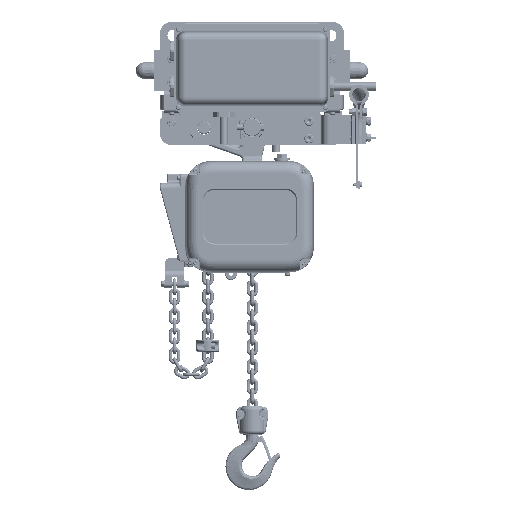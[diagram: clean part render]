
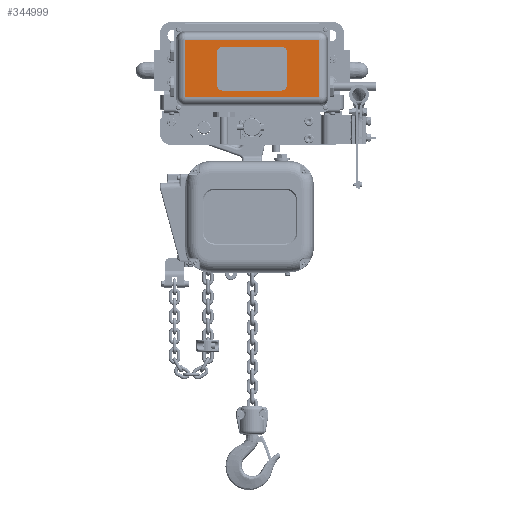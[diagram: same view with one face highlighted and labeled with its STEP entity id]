
A CAD part, top view. The second image highlights one B-rep face of the part: STEP entity #344999.
In plain terms, the highlighted planar face has unit normal (0, 0, 1) as drawn and (-1, 0, 0) by its records, which use the part's own axes.
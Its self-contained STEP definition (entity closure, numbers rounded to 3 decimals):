
#1058 = LINE ( 'NONE', #222280, #333985 ) ;
#2507 = CARTESIAN_POINT ( 'NONE',  ( -69., -57.158, 18.655 ) ) ;
#8646 = EDGE_CURVE ( 'NONE', #331386, #125015, #20417, .T. ) ;
#20417 = LINE ( 'NONE', #301587, #356213 ) ;
#37830 = CARTESIAN_POINT ( 'NONE',  ( -69., 123.071, 247.765 ) ) ;
#51772 = DIRECTION ( 'NONE',  ( -1., 0., 0. ) ) ;
#52414 = ORIENTED_EDGE ( 'NONE', *, *, #95465, .T. ) ;
#58764 = LINE ( 'NONE', #2507, #197010 ) ;
#66957 = VERTEX_POINT ( 'NONE', #208042 ) ;
#70608 = ORIENTED_EDGE ( 'NONE', *, *, #8646, .T. ) ;
#84505 = DIRECTION ( 'NONE',  ( 0., 0., -1. ) ) ;
#95465 = EDGE_CURVE ( 'NONE', #125015, #66957, #1058, .T. ) ;
#100751 = DIRECTION ( 'NONE',  ( 0., 0., 1. ) ) ;
#104593 = EDGE_LOOP ( 'NONE', ( #240271, #70608, #52414, #128593 ) ) ;
#113134 = DIRECTION ( 'NONE',  ( 0., -1., 0. ) ) ;
#125015 = VERTEX_POINT ( 'NONE', #37830 ) ;
#128593 = ORIENTED_EDGE ( 'NONE', *, *, #300881, .T. ) ;
#135178 = PLANE ( 'NONE',  #349128 ) ;
#153381 = EDGE_CURVE ( 'NONE', #337869, #331386, #241834, .T. ) ;
#197010 = VECTOR ( 'NONE', #113134, 1000. ) ;
#208042 = CARTESIAN_POINT ( 'NONE',  ( -69., 123.071, 18.655 ) ) ;
#211347 = FACE_OUTER_BOUND ( 'NONE', #104593, .T. ) ;
#213173 = CARTESIAN_POINT ( 'NONE',  ( -69., -57.158, 266. ) ) ;
#215874 = CARTESIAN_POINT ( 'NONE',  ( -69., 24.929, 247.765 ) ) ;
#222280 = CARTESIAN_POINT ( 'NONE',  ( -69., 123.071, 266. ) ) ;
#240271 = ORIENTED_EDGE ( 'NONE', *, *, #153381, .T. ) ;
#241834 = LINE ( 'NONE', #272663, #327619 ) ;
#270872 = DIRECTION ( 'NONE',  ( 0., 0., 1. ) ) ;
#272663 = CARTESIAN_POINT ( 'NONE',  ( -69., 24.929, 266. ) ) ;
#300881 = EDGE_CURVE ( 'NONE', #66957, #337869, #58764, .T. ) ;
#301507 = CARTESIAN_POINT ( 'NONE',  ( -69., 24.929, 18.655 ) ) ;
#301587 = CARTESIAN_POINT ( 'NONE',  ( -69., 135.625, 247.765 ) ) ;
#326985 = DIRECTION ( 'NONE',  ( 0., 1., 0. ) ) ;
#327619 = VECTOR ( 'NONE', #270872, 1000. ) ;
#331386 = VERTEX_POINT ( 'NONE', #215874 ) ;
#333985 = VECTOR ( 'NONE', #84505, 1000. ) ;
#337869 = VERTEX_POINT ( 'NONE', #301507 ) ;
#344999 = ADVANCED_FACE ( 'NONE', ( #211347 ), #135178, .T. ) ;
#349128 = AXIS2_PLACEMENT_3D ( 'NONE', #213173, #51772, #100751 ) ;
#356213 = VECTOR ( 'NONE', #326985, 1000. ) ;
